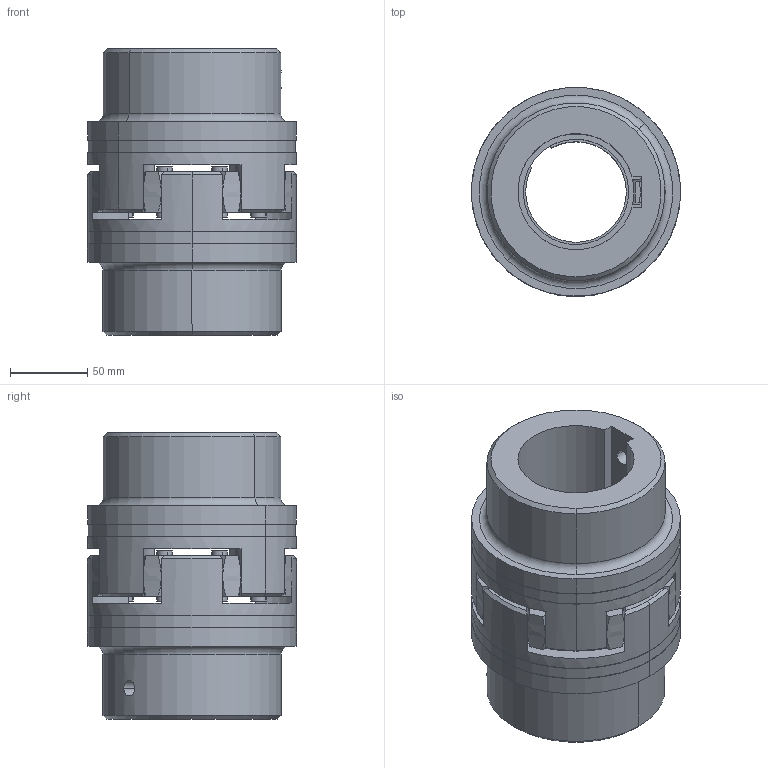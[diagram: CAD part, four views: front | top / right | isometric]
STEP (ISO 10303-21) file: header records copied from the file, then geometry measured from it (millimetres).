
FILE_DESCRIPTION (( 'STEP AP214' ), '1' );
FILE_NAME ('Sprzêg³o Rotex 65-75.STEP', '2026-06-01T07:45:01', ( '' ), ( '' ), 'SwSTEP 2.0', 'SolidWorks 2022', '' );
FILE_SCHEMA (( 'AUTOMOTIVE_DESIGN' ));
Length unit declared in the file: millimetre
Products named in the file (4): 020655007500_S214.stp; Sprz璕這 Rotex 65-75; Rotex 65.stp; £¹cznik Rotex 65.stp
Assembly tree (3 placements, depth 2):
  Sprz璕這 Rotex 65-75
    Rotex 65.stp
    020655007500_S214.stp
    £¹cznik Rotex 65.stp
Bounding box: 135 x 135 x 185 mm (x, y, z)
Volume: 1463983.6 mm3; surface area: 192848.1 mm2
Topology: 3 solids, 3 shells, 154 faces, 392 edges, 258 vertices
Faces by surface type: cylinder 70, plane 34, bspline 32, cone 14, torus 4
Entity records: 6908 total; most frequent: CARTESIAN_POINT 3154, ORIENTED_EDGE 784, DIRECTION 722, EDGE_CURVE 392, AXIS2_PLACEMENT_3D 318, VERTEX_POINT 258, CIRCLE 190, EDGE_LOOP 178
